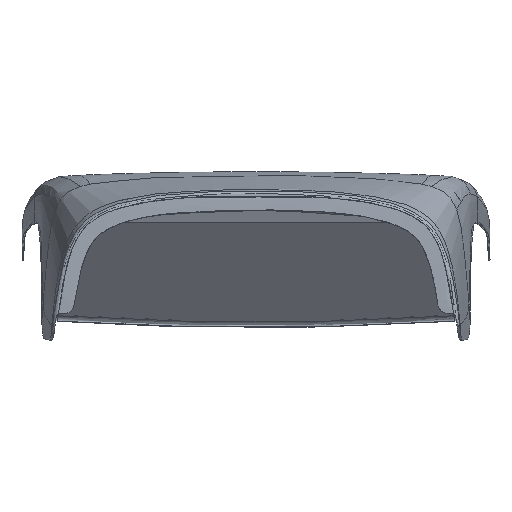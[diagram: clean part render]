
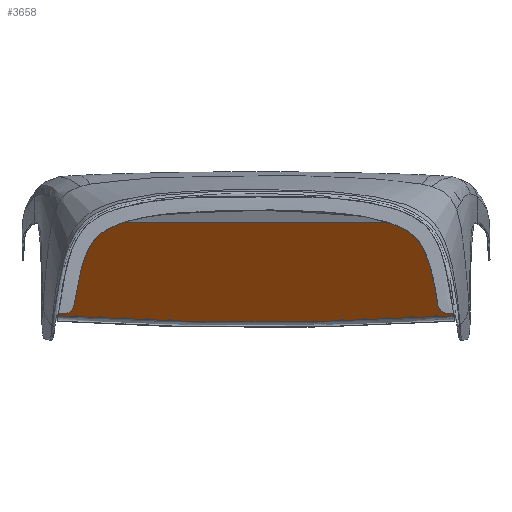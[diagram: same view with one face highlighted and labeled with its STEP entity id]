
A CAD part, top view. The second image highlights one B-rep face of the part: STEP entity #3658.
In plain terms, the highlighted planar face has unit normal (0, -0.931, 0.366).
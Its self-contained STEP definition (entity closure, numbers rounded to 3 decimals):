
#66=PLANE('',#3789);
#124=LINE('',#14257,#213);
#157=LINE('',#16258,#246);
#158=LINE('',#16281,#247);
#159=LINE('',#16283,#248);
#160=LINE('',#16284,#249);
#213=VECTOR('',#3888,1000.);
#246=VECTOR('',#3949,1000.);
#247=VECTOR('',#3950,1000.);
#248=VECTOR('',#3951,1000.);
#249=VECTOR('',#3952,1000.);
#627=ORIENTED_EDGE('',*,*,#1369,.F.);
#628=ORIENTED_EDGE('',*,*,#1370,.T.);
#629=ORIENTED_EDGE('',*,*,#1371,.F.);
#630=ORIENTED_EDGE('',*,*,#1372,.T.);
#631=ORIENTED_EDGE('',*,*,#1373,.F.);
#632=ORIENTED_EDGE('',*,*,#1374,.F.);
#633=ORIENTED_EDGE('',*,*,#1284,.F.);
#634=ORIENTED_EDGE('',*,*,#1375,.F.);
#1284=EDGE_CURVE('',#1668,#1669,#124,.T.);
#1369=EDGE_CURVE('',#1728,#1729,#157,.T.);
#1370=EDGE_CURVE('',#1728,#1730,#1987,.F.);
#1371=EDGE_CURVE('',#1731,#1730,#1988,.T.);
#1372=EDGE_CURVE('',#1731,#1732,#1989,.F.);
#1373=EDGE_CURVE('',#1733,#1732,#158,.T.);
#1374=EDGE_CURVE('',#1669,#1733,#159,.T.);
#1375=EDGE_CURVE('',#1729,#1668,#160,.T.);
#1668=VERTEX_POINT('',#14256);
#1669=VERTEX_POINT('',#14258);
#1728=VERTEX_POINT('',#16259);
#1729=VERTEX_POINT('',#16260);
#1730=VERTEX_POINT('',#16265);
#1731=VERTEX_POINT('',#16275);
#1732=VERTEX_POINT('',#16280);
#1733=VERTEX_POINT('',#16282);
#1987=B_SPLINE_CURVE_WITH_KNOTS('',3,(#16261,#16262,#16263,#16264),
 .UNSPECIFIED.,.F.,.F.,(4,4),(0.,1.),.UNSPECIFIED.);
#1988=B_SPLINE_CURVE_WITH_KNOTS('',3,(#16266,#16267,#16268,#16269,#16270,
#16271,#16272,#16273,#16274),.UNSPECIFIED.,.F.,.F.,(4,1,1,1,1,1,4),(0.,
0.25,0.375,0.5,0.625,0.75,1.),.UNSPECIFIED.);
#1989=B_SPLINE_CURVE_WITH_KNOTS('',3,(#16276,#16277,#16278,#16279),
 .UNSPECIFIED.,.F.,.F.,(4,4),(0.,1.),.UNSPECIFIED.);
#2160=EDGE_LOOP('',(#627,#628,#629,#630,#631,#632,#633,#634));
#2316=FACE_BOUND('',#2160,.T.);
#3658=ADVANCED_FACE('',(#2316),#66,.T.);
#3789=AXIS2_PLACEMENT_3D('',#16257,#3947,#3948);
#3888=DIRECTION('',(1.,0.,0.));
#3947=DIRECTION('',(0.,-0.931,0.366));
#3948=DIRECTION('',(1.,0.,0.));
#3949=DIRECTION('',(-1.,0.,0.));
#3950=DIRECTION('',(-1.,0.,0.));
#3951=DIRECTION('',(0.,-0.366,-0.931));
#3952=DIRECTION('',(0.,0.366,0.931));
#14256=CARTESIAN_POINT('',(-204.,90.47,204.017));
#14257=CARTESIAN_POINT('',(-194.578,90.47,204.017));
#14258=CARTESIAN_POINT('',(204.,90.47,204.017));
#16257=CARTESIAN_POINT('',(204.,90.47,204.017));
#16258=CARTESIAN_POINT('',(-202.,-3.122,-34.2));
#16259=CARTESIAN_POINT('',(-201.301,-3.122,-34.2));
#16260=CARTESIAN_POINT('',(-204.,-3.122,-34.2));
#16261=CARTESIAN_POINT('',(-198.727,-3.204,-34.407));
#16262=CARTESIAN_POINT('',(-199.578,-3.15,-34.269));
#16263=CARTESIAN_POINT('',(-200.436,-3.122,-34.2));
#16264=CARTESIAN_POINT('',(-201.301,-3.122,-34.2));
#16265=CARTESIAN_POINT('',(-198.727,-3.204,-34.407));
#16266=CARTESIAN_POINT('',(198.727,-3.204,-34.407));
#16267=CARTESIAN_POINT('',(165.85,-5.298,-39.737));
#16268=CARTESIAN_POINT('',(116.347,-7.654,-45.733));
#16269=CARTESIAN_POINT('',(49.996,-9.224,-49.73));
#16270=CARTESIAN_POINT('',(0.,-9.617,-50.73));
#16271=CARTESIAN_POINT('',(-49.995,-9.224,-49.73));
#16272=CARTESIAN_POINT('',(-116.347,-7.654,-45.733));
#16273=CARTESIAN_POINT('',(-165.85,-5.298,-39.737));
#16274=CARTESIAN_POINT('',(-198.727,-3.204,-34.407));
#16275=CARTESIAN_POINT('',(198.727,-3.204,-34.407));
#16276=CARTESIAN_POINT('',(201.301,-3.122,-34.2));
#16277=CARTESIAN_POINT('',(200.436,-3.122,-34.2));
#16278=CARTESIAN_POINT('',(199.578,-3.15,-34.269));
#16279=CARTESIAN_POINT('',(198.727,-3.204,-34.407));
#16280=CARTESIAN_POINT('',(201.301,-3.122,-34.2));
#16281=CARTESIAN_POINT('',(202.,-3.122,-34.2));
#16282=CARTESIAN_POINT('',(204.,-3.122,-34.2));
#16283=CARTESIAN_POINT('',(204.,43.4,84.211));
#16284=CARTESIAN_POINT('',(-204.,43.4,84.211));
